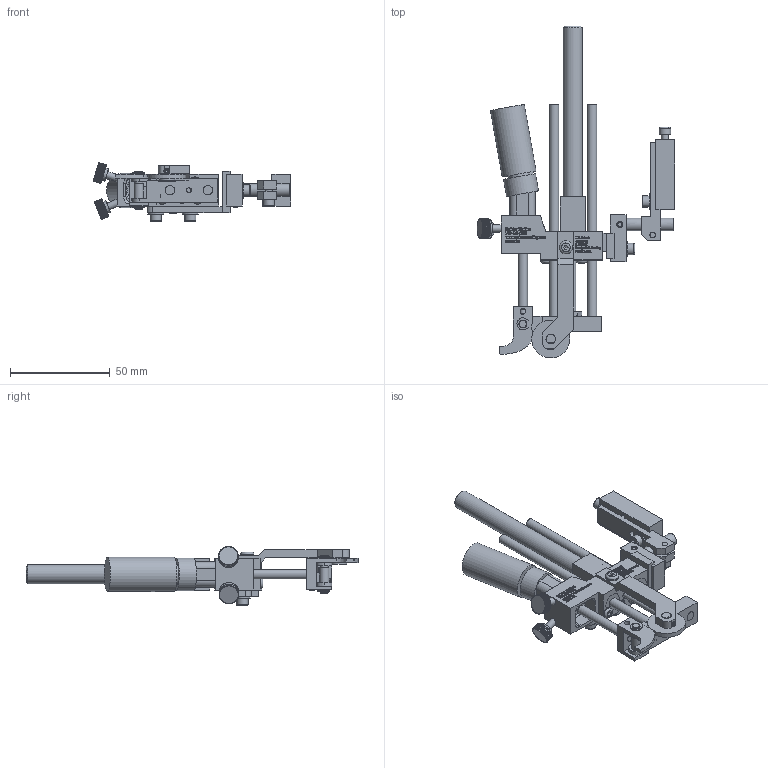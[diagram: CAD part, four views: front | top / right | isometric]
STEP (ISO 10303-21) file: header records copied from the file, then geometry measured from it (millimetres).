
FILE_DESCRIPTION((''),'2;1');
FILE_NAME('C:\Documents and Settings\Ron\My Documents\Inventor\Sprinter Drawing\Machines in Inventor\Model 22\Dot\1-eight\Ext Hd 1in\Brkt\Ret\Model 22 EH1 1-8 dot ret w brkt.stp','2009-01-16T14:36:01',('Ron'),(''),'Autodesk Inventor 2008','Autodesk Inventor 2008','');
FILE_SCHEMA(('AUTOMOTIVE_DESIGN { 1 0 10303 214 1 1 1 1 }'));
Length unit declared in the file: inch
Products named in the file (1): Model 22 EH1 1-8 dot ret w brkt
Bounding box: 99.17 x 166.65 x 29.55 mm (x, y, z)
Volume: 61181.6 mm3; surface area: 36485.8 mm2
Topology: 34 solids, 34 shells, 4724 faces, 13120 edges, 8713 vertices
Faces by surface type: plane 2881, bspline 1287, cylinder 487, cone 55, torus 14
Full cylindrical faces by diameter (mm): 2.845 x3, 2.946 x2, 3.175 x5, 3.493 x1, 3.505 x7, 3.556 x2, 3.658 x1, 3.876 x1, 3.962 x9, 4.064 x1, 4.166 x3, 4.648 x2, 4.699 x1, 4.75 x3, 4.763 x2, 4.788 x1, 5.41 x2, 5.74 x6, 6.096 x1, 6.325 x2, 6.35 x3, 6.477 x1, 6.655 x1, 7.925 x4, 7.938 x3, 8.128 x1, 9.525 x1, 10.922 x1, 11.938 x1, 14.478 x1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
Entity records: 165281 total; most frequent: CARTESIAN_POINT 48871, ORIENTED_EDGE 25672, DIRECTION 18389, EDGE_CURVE 12836, VECTOR 9019, LINE 9019, VERTEX_POINT 8614, EDGE_LOOP 5250
